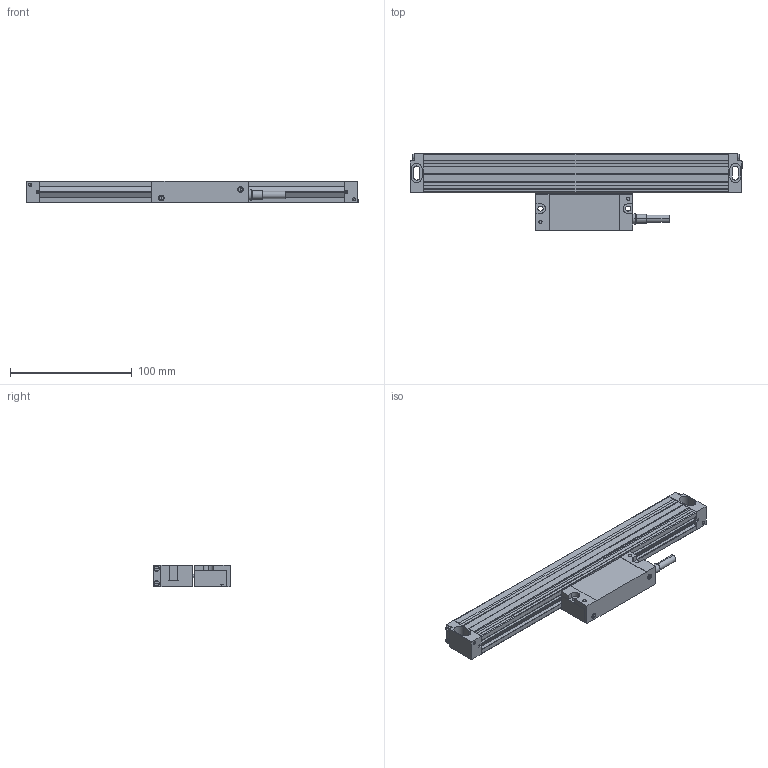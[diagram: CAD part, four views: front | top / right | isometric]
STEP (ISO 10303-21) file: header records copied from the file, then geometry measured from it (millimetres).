
FILE_DESCRIPTION (( 'STEP AP214' ), '1' );
FILE_NAME ('ﾋﾈﾐ-ﾄﾀ7.STEP', '2017-05-23T08:25:14', ( '' ), ( '' ), 'SwSTEP 2.0', 'SolidWorks 2013', '' );
FILE_SCHEMA (( 'AUTOMOTIVE_DESIGN' ));
Length unit declared in the file: millimetre
Products named in the file (1): ﾋﾈﾐ-ﾄﾀ7
Bounding box: 273 x 62.98 x 18 mm (x, y, z)
Volume: 96628.5 mm3; surface area: 95413.6 mm2
Topology: 22 solids, 22 shells, 1870 faces, 4971 edges, 3152 vertices
Faces by surface type: cone 900, cylinder 615, plane 333, torus 18, bspline 4
Entity records: 80793 total; most frequent: CARTESIAN_POINT 11486, DIRECTION 11178, ORIENTED_EDGE 9902, EDGE_CURVE 4951, AXIS2_PLACEMENT_3D 4465, VERTEX_POINT 3152, CIRCLE 2598, VECTOR 2248
